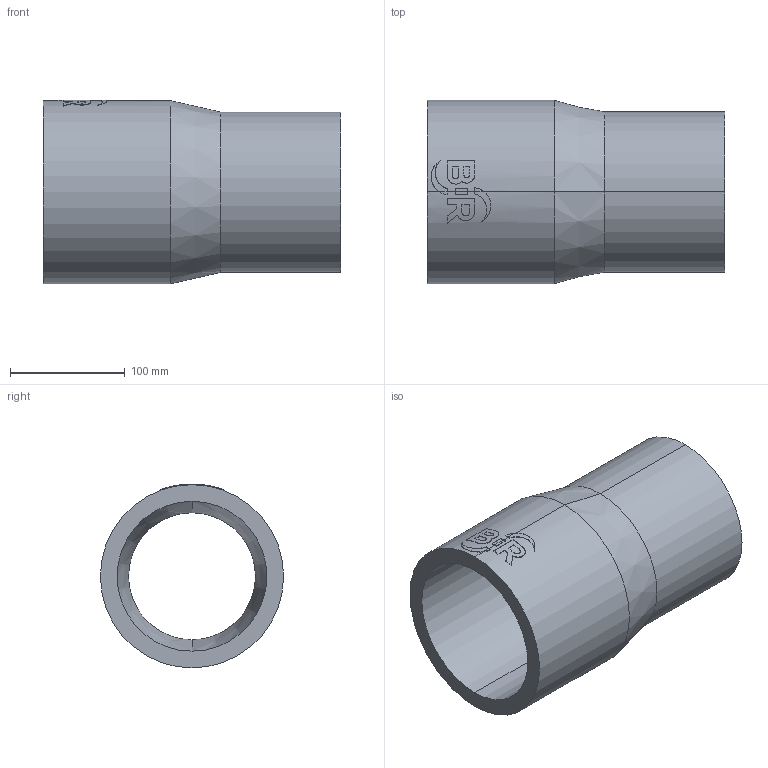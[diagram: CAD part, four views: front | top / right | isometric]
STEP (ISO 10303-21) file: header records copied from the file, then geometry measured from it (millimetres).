
FILE_DESCRIPTION (( 'STEP AP214' ), '1' );
FILE_NAME ('2323171615.STEP', '2018-07-20T10:53:19', ( '' ), ( '' ), 'SwSTEP 2.0', 'SolidWorks 2017', '' );
FILE_SCHEMA (( 'AUTOMOTIVE_DESIGN' ));
Length unit declared in the file: millimetre
Products named in the file (1): 2323171615
Bounding box: 260 x 160 x 160.46 mm (x, y, z)
Volume: 1624148.3 mm3; surface area: 235060.3 mm2
Topology: 1 solids, 1 shells, 63 faces, 160 edges, 104 vertices
Faces by surface type: cylinder 31, plane 28, cone 4
Entity records: 3249 total; most frequent: CARTESIAN_POINT 1040, ORIENTED_EDGE 320, DIRECTION 296, EDGE_CURVE 160, AXIS2_PLACEMENT_3D 112, VERTEX_POINT 104, VECTOR 72, LINE 72
